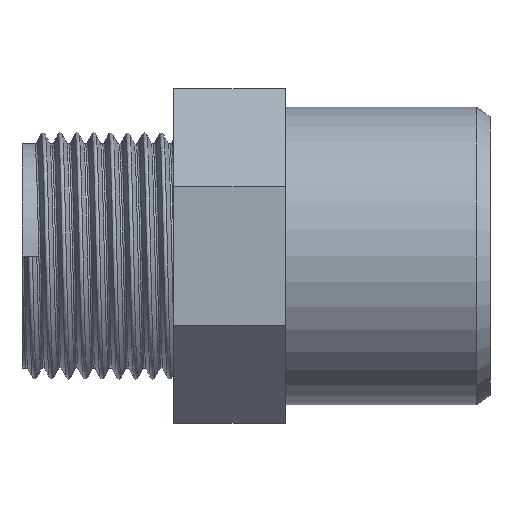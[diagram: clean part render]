
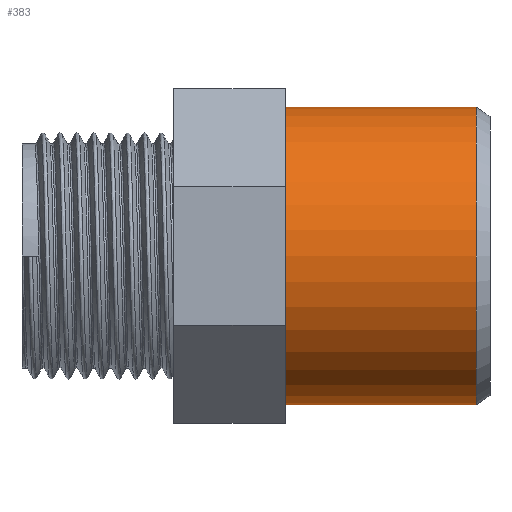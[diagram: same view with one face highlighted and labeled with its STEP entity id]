
A CAD part, left-side view. The second image highlights one B-rep face of the part: STEP entity #383.
In plain terms, the highlighted cylindrical face has radius 16 mm (diameter 32 mm), a full revolution.
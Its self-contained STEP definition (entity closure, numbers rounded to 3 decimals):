
#100=CYLINDRICAL_SURFACE('',#413,16.);
#106=FACE_BOUND('',#145,.T.);
#117=FACE_OUTER_BOUND('',#144,.T.);
#144=EDGE_LOOP('',(#281));
#145=EDGE_LOOP('',(#282));
#179=CIRCLE('',#411,16.);
#181=CIRCLE('',#414,16.);
#192=VERTEX_POINT('',#543);
#194=VERTEX_POINT('',#548);
#228=EDGE_CURVE('',#192,#192,#179,.T.);
#230=EDGE_CURVE('',#194,#194,#181,.T.);
#281=ORIENTED_EDGE('',*,*,#230,.F.);
#282=ORIENTED_EDGE('',*,*,#228,.F.);
#383=ADVANCED_FACE('',(#117,#106),#100,.T.);
#411=AXIS2_PLACEMENT_3D('',#544,#448,#449);
#413=AXIS2_PLACEMENT_3D('',#547,#452,#453);
#414=AXIS2_PLACEMENT_3D('',#549,#454,#455);
#448=DIRECTION('center_axis',(0.,-1.,0.));
#449=DIRECTION('ref_axis',(-1.,0.,0.));
#452=DIRECTION('center_axis',(0.,-1.,0.));
#453=DIRECTION('ref_axis',(-1.,0.,0.));
#454=DIRECTION('center_axis',(0.,1.,0.));
#455=DIRECTION('ref_axis',(-1.,0.,0.));
#543=CARTESIAN_POINT('',(16.,-26.5,0.));
#544=CARTESIAN_POINT('Origin',(0.,-26.5,0.));
#547=CARTESIAN_POINT('Origin',(0.,-6.,0.));
#548=CARTESIAN_POINT('',(16.,-6.,0.));
#549=CARTESIAN_POINT('Origin',(0.,-6.,0.));
